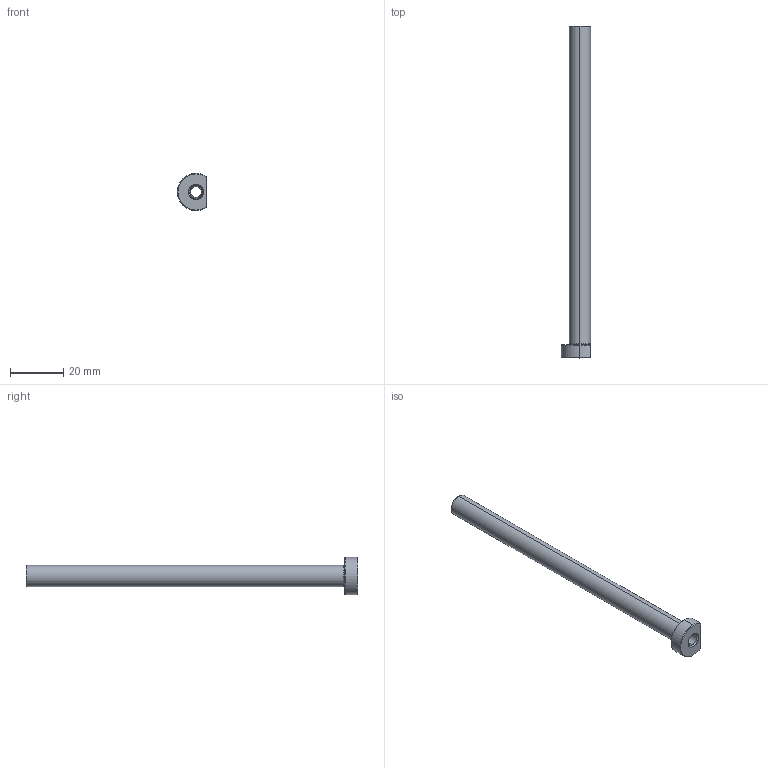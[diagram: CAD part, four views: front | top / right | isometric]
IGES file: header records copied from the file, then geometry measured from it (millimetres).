
Start section: SolidWorks IGES file using analytic representation for surfaces
Global section: file name: C:\Users\365admin\AppData\Local\Temp\InFlowConvert3DWorking\ESD042L125-K.igs; native system: SolidWorks 2019; preprocessor: SolidWorks 2019; author: 365admin; date: 220205.150136; units: millimetre
Bounding box: 11 x 125 x 14 mm (x, y, z)
Surface area: 5205.5 mm2 (no closed solid volume)
Topology: 0 solids, 0 shells, 26 faces, 291 edges, 291 vertices
Faces by surface type: revolution 19, bspline 7
